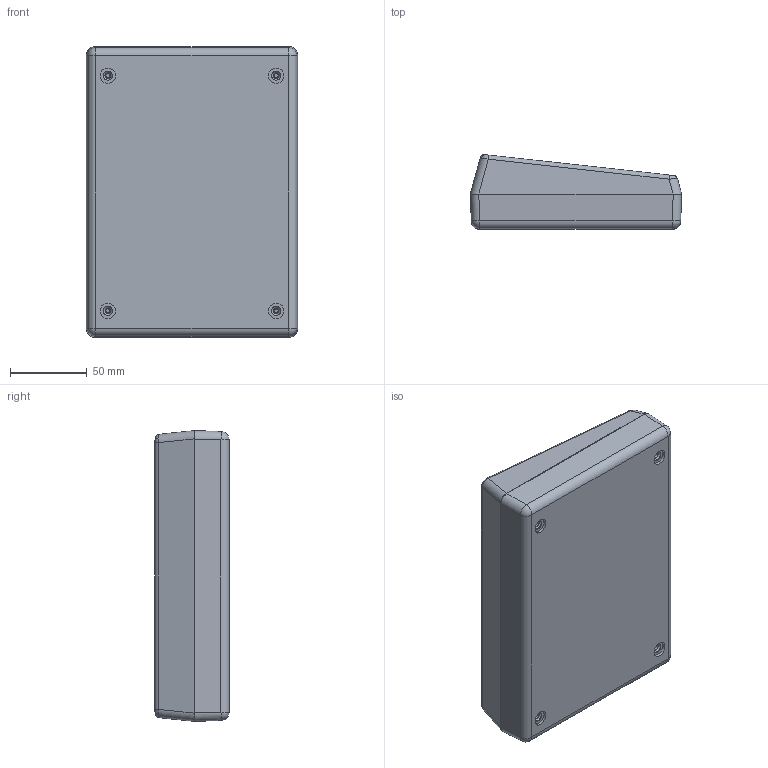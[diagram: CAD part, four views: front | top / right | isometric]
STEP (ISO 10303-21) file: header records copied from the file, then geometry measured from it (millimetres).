
FILE_DESCRIPTION (( 'STEP AP214' ), '1' );
FILE_NAME ('SESS-007 Shallow assembly.STEP', '2023-12-14T19:18:51', ( '' ), ( '' ), 'SwSTEP 2.0', 'SolidWorks 2016', '' );
FILE_SCHEMA (( 'AUTOMOTIVE_DESIGN' ));
Length unit declared in the file: inch
Products named in the file (4): SESS-007 Shallow assembly; SES Top; SE Bottom shallow; Threaded insert
Assembly tree (6 placements, depth 2):
  SESS-007 Shallow assembly
    SE Bottom shallow
    SES Top
    Threaded insert  x4
Bounding box: 138 x 48.49 x 190 mm (x, y, z)
Volume: 220901.3 mm3; surface area: 160597 mm2
Topology: 6 solids, 6 shells, 530 faces, 1353 edges, 871 vertices
Faces by surface type: plane 220, cylinder 218, cone 53, bspline 31, sphere 8
Entity records: 15669 total; most frequent: CARTESIAN_POINT 5042, ORIENTED_EDGE 2240, DIRECTION 2112, EDGE_CURVE 1120, AXIS2_PLACEMENT_3D 735, VERTEX_POINT 721, LINE 642, VECTOR 642
